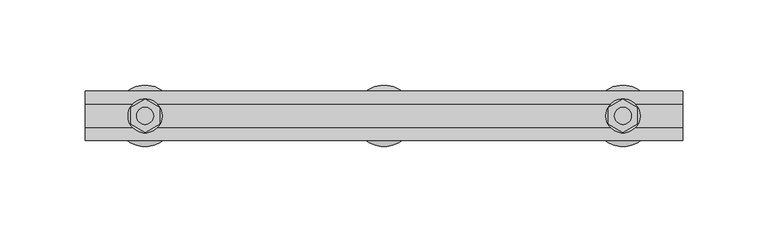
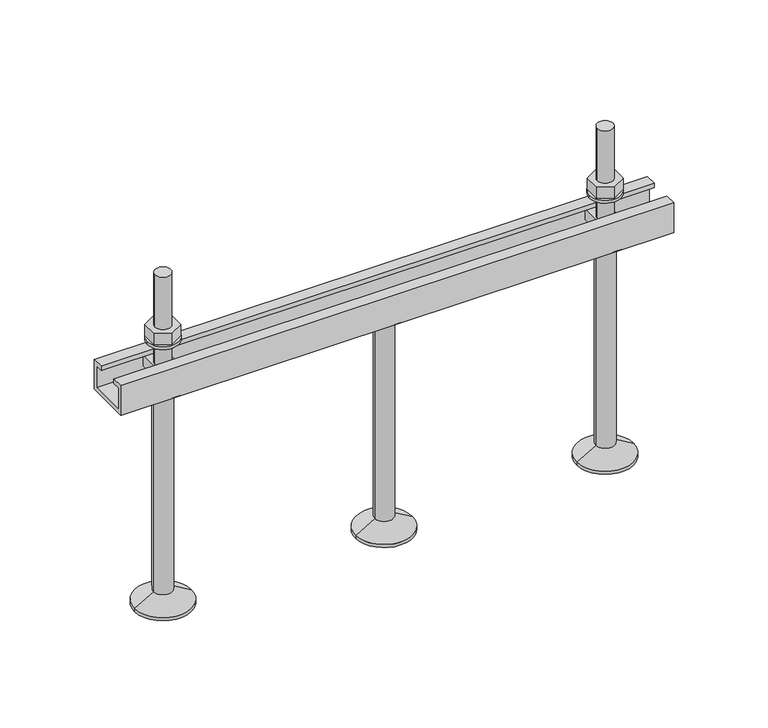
"""IFC4 building model written with IfcOpenShell, lengths in millimetres: fastener geometry, JXA(-PC) JORDAHL® toothed channels : JXA(-PC) L=350 mm."""

from ifc_helpers import new_model, si_unit, point, frame, frame_2d, origin, place, context, project, spatial, polyline, circle_curve, trimmed, segment, composite_curve, outline, extrude, source, transform, mapped, element, save
from ifc_brep_helpers import plane_surface, cylinder_surface, revolved_surface, advanced_brep


def fastener_a951ed44(model_context):
    return source(origin(), model_context, "Body", "SolidModel", [
        advanced_brep(
        [(175.0, 0.0, -20.0), (189.5, 0.0, -20.0), (160.5, 0.0, -20.0), (157.0, 0.0, -166.0), (193.0, 0.0, -166.0), (175.0, 0.0, -166.0), (157.0, 0.0, -164.0), (193.0, 0.0, -164.0), (169.0, 0.0, -157.0717968), (181.0, 0.0, -157.0717968), (169.0, 0.0, -22.5), (181.0, 0.0, -22.5)],
        [
            (0, 1),
            (1, 2, circle_curve(frame((175.0, 0.0, -20.0), z_axis=(0.0, 0.0, 1.0), x_axis=(1.0, 0.0, 0.0)), 14.5)),
            (2, 0),
            (2, 1, circle_curve(frame((175.0, 0.0, -20.0), z_axis=(0.0, 0.0, 1.0), x_axis=(1.0, 0.0, 0.0)), 14.5)),
            (3, 4, circle_curve(frame((175.0, 0.0, -166.0), z_axis=(0.0, 0.0, -1.0), x_axis=(1.0, 0.0, 0.0)), 18.0)),
            (4, 5),
            (5, 3),
            (4, 3, circle_curve(frame((175.0, 0.0, -166.0), z_axis=(0.0, 0.0, -1.0), x_axis=(1.0, 0.0, 0.0)), 18.0)),
            (6, 7, circle_curve(frame((175.0, 0.0, -164.0), z_axis=(0.0, 0.0, -1.0), x_axis=(1.0, 0.0, 0.0)), 18.0)),
            (7, 4),
            (3, 6),
            (7, 6, circle_curve(frame((175.0, 0.0, -164.0), z_axis=(0.0, 0.0, -1.0), x_axis=(1.0, 0.0, 0.0)), 18.0)),
            (8, 9, circle_curve(frame((175.0, 0.0, -157.0717968), z_axis=(0.0, 0.0, -1.0), x_axis=(1.0, 0.0, 0.0)), 6.0)),
            (9, 7),
            (6, 8),
            (9, 8, circle_curve(frame((175.0, 0.0, -157.0717968), z_axis=(0.0, 0.0, -1.0), x_axis=(1.0, 0.0, 0.0)), 6.0)),
            (10, 11, circle_curve(frame((175.0, 0.0, -22.5), z_axis=(0.0, 0.0, -1.0), x_axis=(1.0, 0.0, 0.0)), 6.0)),
            (11, 9),
            (8, 10),
            (11, 10, circle_curve(frame((175.0, 0.0, -22.5), z_axis=(0.0, 0.0, -1.0), x_axis=(1.0, 0.0, 0.0)), 6.0)),
            (1, 11),
            (10, 2),
        ],
        [
            plane_surface(frame((175.0, 0.0, -20.0), z_axis=(0.0, 0.0, 1.0), x_axis=(1.0, 0.0, 0.0))),
            plane_surface(frame((175.0, 0.0, -166.0), z_axis=(0.0, 0.0, -1.0), x_axis=(1.0, 0.0, 0.0))),
            cylinder_surface(frame((175.0, 0.0, 2214.3150031), z_axis=(0.0, 0.0, 1.0), x_axis=(1.0, 0.0, 0.0)), 18.0),
            revolved_surface(polyline([(193.0, 0.0, -164.0), (181.0, 0.0, -157.0717968)]), (175.0, 0.0, 2214.3150031), (0.0, 0.0, 1.0)),
            cylinder_surface(frame((175.0, 0.0, 2214.3150031), z_axis=(0.0, 0.0, 1.0), x_axis=(1.0, 0.0, 0.0)), 6.0),
            revolved_surface(polyline([(181.0, 0.0, -22.5), (189.5, 0.0, -20.0)]), (175.0, 0.0, 2214.3150031), (0.0, 0.0, 1.0)),
        ],
        [
            (0, [[1, 2, 3]]),
            (0, [[-3, 4, -1]]),
            (1, [[5, 6, 7]]),
            (1, [[8, -7, -6]]),
            (2, [[9, 10, -5, 11]]),
            (2, [[12, -11, -8, -10]]),
            (3, [[13, 14, -9, 15]]),
            (3, [[16, -15, -12, -14]]),
            (4, [[17, 18, -13, 19]]),
            (4, [[20, -19, -16, -18]]),
            (5, [[-2, 21, -17, 22]]),
            (5, [[-4, -22, -20, -21]]),
        ],
    ),
        extrude(outline(composite_curve([segment(trimmed(circle_curve(frame_2d((315.0, 0.0)), 10.0), [point((305.0, 0.0))], [point((325.0, 0.0))], False, "CARTESIAN"), True, "CONTINUOUS"), segment(trimmed(circle_curve(frame_2d((315.0, 0.0)), 10.0), [point((325.0, 0.0))], [point((305.0, 0.0))], False, "CARTESIAN"), True, "CONTINUOUS")], self_intersect=False), holes=[composite_curve([segment(trimmed(circle_curve(frame_2d((315.0, 0.0)), 5.5), [point((309.5, 0.0))], [point((320.5, 0.0))], True, "CARTESIAN"), True, "CONTINUOUS"), segment(trimmed(circle_curve(frame_2d((315.0, 0.0)), 5.5), [point((320.5, 0.0))], [point((309.5, 0.0))], True, "CARTESIAN"), True, "CONTINUOUS")], self_intersect=False)]), frame((0.0, 0.0, 10.0), z_axis=(0.0, 0.0, 1.0), x_axis=(1.0, 0.0, 0.0)), (0.0, 0.0, 1.0), 2.0),
        extrude(outline(polyline([(315.0, 9.8149546), (323.5, 4.9074773), (323.5, -4.9074773), (315.0, -9.8149546), (306.5, -4.9074773), (306.5, 4.9074773), (315.0, 9.8149546)]), holes=[composite_curve([segment(trimmed(circle_curve(frame_2d((315.0, 0.0)), 5.0), [point((310.0, 0.0))], [point((320.0, 0.0))], True, "CARTESIAN"), True, "CONTINUOUS"), segment(trimmed(circle_curve(frame_2d((315.0, 0.0)), 5.0), [point((320.0, 0.0))], [point((310.0, 0.0))], True, "CARTESIAN"), True, "CONTINUOUS")], self_intersect=False)]), frame((0.0, 0.0, 12.0), z_axis=(0.0, 0.0, 1.0), x_axis=(1.0, 0.0, 0.0)), (0.0, 0.0, 1.0), 8.0),
        advanced_brep(
        [(321.5, 10.5, -5.0), (321.5, -10.5, -5.0), (321.5, -10.5, -12.0), (321.5, 10.5, -12.0), (308.5, 10.5, -5.0), (308.5, 10.5, -12.0), (308.5, -10.5, -12.0), (308.5, -10.5, -5.0), (320.0, 0.0, -5.0), (310.0, 0.0, -5.0), (310.0, 0.0, 55.0), (320.0, 0.0, 55.0)],
        [
            (0, 1),
            (1, 2),
            (2, 3),
            (3, 0),
            (4, 5),
            (5, 6),
            (6, 7),
            (7, 4),
            (0, 4),
            (7, 1),
            (8, 9, circle_curve(frame((315.0, 0.0, -5.0), z_axis=(0.0, 0.0, -1.0), x_axis=(1.0, 0.0, 0.0)), 5.0)),
            (9, 8, circle_curve(frame((315.0, 0.0, -5.0), z_axis=(0.0, 0.0, -1.0), x_axis=(1.0, 0.0, 0.0)), 5.0)),
            (6, 2),
            (5, 3),
            (10, 11, circle_curve(frame((315.0, 0.0, 55.0), z_axis=(0.0, 0.0, 1.0), x_axis=(1.0, 0.0, 0.0)), 5.0)),
            (11, 10, circle_curve(frame((315.0, 0.0, 55.0), z_axis=(0.0, 0.0, 1.0), x_axis=(1.0, 0.0, 0.0)), 5.0)),
            (10, 9),
            (8, 11),
        ],
        [
            plane_surface(frame((321.5, -10.5, -5.0), z_axis=(1.0, 0.0, 0.0), x_axis=(0.0, -1.0, 0.0))),
            plane_surface(frame((308.5, -10.5, -5.0), z_axis=(-1.0, 0.0, 0.0), x_axis=(0.0, 1.0, 0.0))),
            plane_surface(frame((321.5, 10.5, -5.0), z_axis=(0.0, 0.0, 1.0), x_axis=(-1.0, 0.0, 0.0))),
            plane_surface(frame((321.5, -10.5, -5.0), z_axis=(0.0, -1.0, 0.0), x_axis=(-1.0, 0.0, 0.0))),
            plane_surface(frame((321.5, -10.5, -12.0), z_axis=(0.0, 0.0, -1.0), x_axis=(-1.0, 0.0, 0.0))),
            plane_surface(frame((321.5, 10.5, -12.0), z_axis=(0.0, 1.0, 0.0), x_axis=(-1.0, 0.0, 0.0))),
            plane_surface(frame((320.0, 0.0, 55.0), z_axis=(0.0, 0.0, 1.0), x_axis=(0.0, 1.0, 0.0))),
            cylinder_surface(frame((315.0, 0.0, -5.0), z_axis=(0.0, 0.0, 1.0), x_axis=(1.0, 0.0, 0.0)), 5.0),
        ],
        [
            (0, [[1, 2, 3, 4]]),
            (1, [[5, 6, 7, 8]]),
            (2, [[-1, 9, -8, 10], [11, 12]]),
            (3, [[-2, -10, -7, 13]]),
            (4, [[-3, -13, -6, 14]]),
            (5, [[-4, -14, -5, -9]]),
            (6, [[15, 16]]),
            (7, [[-15, 17, -11, 18]]),
            (7, [[-16, -18, -12, -17]]),
        ],
    ),
        extrude(outline(composite_curve([segment(trimmed(circle_curve(frame_2d((35.0, 0.0)), 10.0), [point((25.0, 0.0))], [point((45.0, 0.0))], False, "CARTESIAN"), True, "CONTINUOUS"), segment(trimmed(circle_curve(frame_2d((35.0, 0.0)), 10.0), [point((45.0, 0.0))], [point((25.0, 0.0))], False, "CARTESIAN"), True, "CONTINUOUS")], self_intersect=False), holes=[composite_curve([segment(trimmed(circle_curve(frame_2d((35.0, 0.0)), 5.5), [point((29.5, 0.0))], [point((40.5, 0.0))], True, "CARTESIAN"), True, "CONTINUOUS"), segment(trimmed(circle_curve(frame_2d((35.0, 0.0)), 5.5), [point((40.5, 0.0))], [point((29.5, 0.0))], True, "CARTESIAN"), True, "CONTINUOUS")], self_intersect=False)]), frame((0.0, 0.0, 10.0), z_axis=(0.0, 0.0, 1.0), x_axis=(1.0, 0.0, 0.0)), (0.0, 0.0, 1.0), 2.0),
        extrude(outline(polyline([(35.0, 9.8149546), (43.5, 4.9074773), (43.5, -4.9074773), (35.0, -9.8149546), (26.5, -4.9074773), (26.5, 4.9074773), (35.0, 9.8149546)]), holes=[composite_curve([segment(trimmed(circle_curve(frame_2d((35.0, 0.0)), 5.0), [point((30.0, 0.0))], [point((40.0, 0.0))], True, "CARTESIAN"), True, "CONTINUOUS"), segment(trimmed(circle_curve(frame_2d((35.0, 0.0)), 5.0), [point((40.0, 0.0))], [point((30.0, 0.0))], True, "CARTESIAN"), True, "CONTINUOUS")], self_intersect=False)]), frame((0.0, 0.0, 12.0), z_axis=(0.0, 0.0, 1.0), x_axis=(1.0, 0.0, 0.0)), (0.0, 0.0, 1.0), 8.0),
        advanced_brep(
        [(41.5, 10.5, -5.0), (41.5, -10.5, -5.0), (41.5, -10.5, -12.0), (41.5, 10.5, -12.0), (28.5, 10.5, -5.0), (28.5, 10.5, -12.0), (28.5, -10.5, -12.0), (28.5, -10.5, -5.0), (40.0, 0.0, -5.0), (30.0, 0.0, -5.0), (30.0, 0.0, 55.0), (40.0, 0.0, 55.0)],
        [
            (0, 1),
            (1, 2),
            (2, 3),
            (3, 0),
            (4, 5),
            (5, 6),
            (6, 7),
            (7, 4),
            (0, 4),
            (7, 1),
            (8, 9, circle_curve(frame((35.0, 0.0, -5.0), z_axis=(0.0, 0.0, -1.0), x_axis=(1.0, 0.0, 0.0)), 5.0)),
            (9, 8, circle_curve(frame((35.0, 0.0, -5.0), z_axis=(0.0, 0.0, -1.0), x_axis=(1.0, 0.0, 0.0)), 5.0)),
            (6, 2),
            (5, 3),
            (10, 11, circle_curve(frame((35.0, 0.0, 55.0), z_axis=(0.0, 0.0, 1.0), x_axis=(1.0, 0.0, 0.0)), 5.0)),
            (11, 10, circle_curve(frame((35.0, 0.0, 55.0), z_axis=(0.0, 0.0, 1.0), x_axis=(1.0, 0.0, 0.0)), 5.0)),
            (10, 9),
            (8, 11),
        ],
        [
            plane_surface(frame((41.5, -10.5, -5.0), z_axis=(1.0, 0.0, 0.0), x_axis=(0.0, -1.0, 0.0))),
            plane_surface(frame((28.5, -10.5, -5.0), z_axis=(-1.0, 0.0, 0.0), x_axis=(0.0, 1.0, 0.0))),
            plane_surface(frame((41.5, 10.5, -5.0), z_axis=(0.0, 0.0, 1.0), x_axis=(-1.0, 0.0, 0.0))),
            plane_surface(frame((41.5, -10.5, -5.0), z_axis=(0.0, -1.0, 0.0), x_axis=(-1.0, 0.0, 0.0))),
            plane_surface(frame((41.5, -10.5, -12.0), z_axis=(0.0, 0.0, -1.0), x_axis=(-1.0, 0.0, 0.0))),
            plane_surface(frame((41.5, 10.5, -12.0), z_axis=(0.0, 1.0, 0.0), x_axis=(-1.0, 0.0, 0.0))),
            plane_surface(frame((40.0, 0.0, 55.0), z_axis=(0.0, 0.0, 1.0), x_axis=(0.0, 1.0, 0.0))),
            cylinder_surface(frame((35.0, 0.0, -5.0), z_axis=(0.0, 0.0, 1.0), x_axis=(1.0, 0.0, 0.0)), 5.0),
        ],
        [
            (0, [[1, 2, 3, 4]]),
            (1, [[5, 6, 7, 8]]),
            (2, [[-1, 9, -8, 10], [11, 12]]),
            (3, [[-2, -10, -7, 13]]),
            (4, [[-3, -13, -6, 14]]),
            (5, [[-4, -14, -5, -9]]),
            (6, [[15, 16]]),
            (7, [[-15, 17, -11, 18]]),
            (7, [[-16, -18, -12, -17]]),
        ],
    ),
        advanced_brep(
        [(315.0, 0.0, -20.0), (329.5, 0.0, -20.0), (300.5, 0.0, -20.0), (297.0, 0.0, -166.0), (333.0, 0.0, -166.0), (315.0, 0.0, -166.0), (297.0, 0.0, -164.0), (333.0, 0.0, -164.0), (309.0, 0.0, -157.0717968), (321.0, 0.0, -157.0717968), (309.0, 0.0, -22.5), (321.0, 0.0, -22.5)],
        [
            (0, 1),
            (1, 2, circle_curve(frame((315.0, 0.0, -20.0), z_axis=(0.0, 0.0, 1.0), x_axis=(1.0, 0.0, 0.0)), 14.5)),
            (2, 0),
            (2, 1, circle_curve(frame((315.0, 0.0, -20.0), z_axis=(0.0, 0.0, 1.0), x_axis=(1.0, 0.0, 0.0)), 14.5)),
            (3, 4, circle_curve(frame((315.0, 0.0, -166.0), z_axis=(0.0, 0.0, -1.0), x_axis=(1.0, 0.0, 0.0)), 18.0)),
            (4, 5),
            (5, 3),
            (4, 3, circle_curve(frame((315.0, 0.0, -166.0), z_axis=(0.0, 0.0, -1.0), x_axis=(1.0, 0.0, 0.0)), 18.0)),
            (6, 7, circle_curve(frame((315.0, 0.0, -164.0), z_axis=(0.0, 0.0, -1.0), x_axis=(1.0, 0.0, 0.0)), 18.0)),
            (7, 4),
            (3, 6),
            (7, 6, circle_curve(frame((315.0, 0.0, -164.0), z_axis=(0.0, 0.0, -1.0), x_axis=(1.0, 0.0, 0.0)), 18.0)),
            (8, 9, circle_curve(frame((315.0, 0.0, -157.0717968), z_axis=(0.0, 0.0, -1.0), x_axis=(1.0, 0.0, 0.0)), 6.0)),
            (9, 7),
            (6, 8),
            (9, 8, circle_curve(frame((315.0, 0.0, -157.0717968), z_axis=(0.0, 0.0, -1.0), x_axis=(1.0, 0.0, 0.0)), 6.0)),
            (10, 11, circle_curve(frame((315.0, 0.0, -22.5), z_axis=(0.0, 0.0, -1.0), x_axis=(1.0, 0.0, 0.0)), 6.0)),
            (11, 9),
            (8, 10),
            (11, 10, circle_curve(frame((315.0, 0.0, -22.5), z_axis=(0.0, 0.0, -1.0), x_axis=(1.0, 0.0, 0.0)), 6.0)),
            (1, 11),
            (10, 2),
        ],
        [
            plane_surface(frame((315.0, 0.0, -20.0), z_axis=(0.0, 0.0, 1.0), x_axis=(1.0, 0.0, 0.0))),
            plane_surface(frame((315.0, 0.0, -166.0), z_axis=(0.0, 0.0, -1.0), x_axis=(1.0, 0.0, 0.0))),
            cylinder_surface(frame((315.0, 0.0, 2214.3150031), z_axis=(0.0, 0.0, 1.0), x_axis=(1.0, 0.0, 0.0)), 18.0),
            revolved_surface(polyline([(333.0, 0.0, -164.0), (321.0, 0.0, -157.0717968)]), (315.0, 0.0, 2214.3150031), (0.0, 0.0, 1.0)),
            cylinder_surface(frame((315.0, 0.0, 2214.3150031), z_axis=(0.0, 0.0, 1.0), x_axis=(1.0, 0.0, 0.0)), 6.0),
            revolved_surface(polyline([(321.0, 0.0, -22.5), (329.5, 0.0, -20.0)]), (315.0, 0.0, 2214.3150031), (0.0, 0.0, 1.0)),
        ],
        [
            (0, [[1, 2, 3]]),
            (0, [[-3, 4, -1]]),
            (1, [[5, 6, 7]]),
            (1, [[8, -7, -6]]),
            (2, [[9, 10, -5, 11]]),
            (2, [[12, -11, -8, -10]]),
            (3, [[13, 14, -9, 15]]),
            (3, [[16, -15, -12, -14]]),
            (4, [[17, 18, -13, 19]]),
            (4, [[20, -19, -16, -18]]),
            (5, [[-2, 21, -17, 22]]),
            (5, [[-4, -22, -20, -21]]),
        ],
    ),
        advanced_brep(
        [(35.0, 0.0, -20.0), (49.5, 0.0, -20.0), (20.5, 0.0, -20.0), (17.0, 0.0, -166.0), (53.0, 0.0, -166.0), (35.0, 0.0, -166.0), (17.0, 0.0, -164.0), (53.0, 0.0, -164.0), (29.0, 0.0, -157.0717968), (41.0, 0.0, -157.0717968), (29.0, 0.0, -22.5), (41.0, 0.0, -22.5)],
        [
            (0, 1),
            (1, 2, circle_curve(frame((35.0, 0.0, -20.0), z_axis=(0.0, 0.0, 1.0), x_axis=(1.0, 0.0, 0.0)), 14.5)),
            (2, 0),
            (2, 1, circle_curve(frame((35.0, 0.0, -20.0), z_axis=(0.0, 0.0, 1.0), x_axis=(1.0, 0.0, 0.0)), 14.5)),
            (3, 4, circle_curve(frame((35.0, 0.0, -166.0), z_axis=(0.0, 0.0, -1.0), x_axis=(1.0, 0.0, 0.0)), 18.0)),
            (4, 5),
            (5, 3),
            (4, 3, circle_curve(frame((35.0, 0.0, -166.0), z_axis=(0.0, 0.0, -1.0), x_axis=(1.0, 0.0, 0.0)), 18.0)),
            (6, 7, circle_curve(frame((35.0, 0.0, -164.0), z_axis=(0.0, 0.0, -1.0), x_axis=(1.0, 0.0, 0.0)), 18.0)),
            (7, 4),
            (3, 6),
            (7, 6, circle_curve(frame((35.0, 0.0, -164.0), z_axis=(0.0, 0.0, -1.0), x_axis=(1.0, 0.0, 0.0)), 18.0)),
            (8, 9, circle_curve(frame((35.0, 0.0, -157.0717968), z_axis=(0.0, 0.0, -1.0), x_axis=(1.0, 0.0, 0.0)), 6.0)),
            (9, 7),
            (6, 8),
            (9, 8, circle_curve(frame((35.0, 0.0, -157.0717968), z_axis=(0.0, 0.0, -1.0), x_axis=(1.0, 0.0, 0.0)), 6.0)),
            (10, 11, circle_curve(frame((35.0, 0.0, -22.5), z_axis=(0.0, 0.0, -1.0), x_axis=(1.0, 0.0, 0.0)), 6.0)),
            (11, 9),
            (8, 10),
            (11, 10, circle_curve(frame((35.0, 0.0, -22.5), z_axis=(0.0, 0.0, -1.0), x_axis=(1.0, 0.0, 0.0)), 6.0)),
            (1, 11),
            (10, 2),
        ],
        [
            plane_surface(frame((35.0, 0.0, -20.0), z_axis=(0.0, 0.0, 1.0), x_axis=(1.0, 0.0, 0.0))),
            plane_surface(frame((35.0, 0.0, -166.0), z_axis=(0.0, 0.0, -1.0), x_axis=(1.0, 0.0, 0.0))),
            cylinder_surface(frame((35.0, 0.0, 2214.3150031), z_axis=(0.0, 0.0, 1.0), x_axis=(1.0, 0.0, 0.0)), 18.0),
            revolved_surface(polyline([(53.0, 0.0, -164.0), (41.0, 0.0, -157.0717968)]), (35.0, 0.0, 2214.3150031), (0.0, 0.0, 1.0)),
            cylinder_surface(frame((35.0, 0.0, 2214.3150031), z_axis=(0.0, 0.0, 1.0), x_axis=(1.0, 0.0, 0.0)), 6.0),
            revolved_surface(polyline([(41.0, 0.0, -22.5), (49.5, 0.0, -20.0)]), (35.0, 0.0, 2214.3150031), (0.0, 0.0, 1.0)),
        ],
        [
            (0, [[1, 2, 3]]),
            (0, [[-3, 4, -1]]),
            (1, [[5, 6, 7]]),
            (1, [[8, -7, -6]]),
            (2, [[9, 10, -5, 11]]),
            (2, [[12, -11, -8, -10]]),
            (3, [[13, 14, -9, 15]]),
            (3, [[16, -15, -12, -14]]),
            (4, [[17, 18, -13, 19]]),
            (4, [[20, -19, -16, -18]]),
            (5, [[-2, 21, -17, 22]]),
            (5, [[-4, -22, -20, -21]]),
        ],
    ),
        extrude(outline(polyline([(14.5, 0.0), (14.5, -20.0), (-14.5, -20.0), (-14.5, 0.0), (-7.0, 0.0), (-7.0, -3.0), (-12.0, -3.0), (-12.0, -17.5), (12.0, -17.5), (12.0, -3.0), (7.0, -3.0), (7.0, 0.0), (14.5, 0.0)])), frame((0.0, 0.0, 0.0), z_axis=(1.0, 0.0, 0.0), x_axis=(0.0, 1.0, 0.0)), (0.0, 0.0, 1.0), 350.0),
    ])


if __name__ == "__main__":
    model = new_model("IFC4")
    model_context = context("Model", 3, world=origin())
    ifc_project = project(units=[si_unit("LENGTHUNIT", "METRE", prefix="MILLI")], contexts=[model_context])
    site = spatial("IfcSite", under=ifc_project)
    building = spatial("IfcBuilding", under=site)
    placement = place(None, origin())
    fastener_shape = fastener_a951ed44(model_context)
    element("IfcFastener", 1, ObjectType="JXA(-PC) JORDAHL® toothed channels : JXA(-PC) L=350 mm", at=placement, inside=building, context=model_context, shape_type="MappedRepresentation", body=[
        mapped(fastener_shape, transform((0.0, 0.0, 0.0), x_axis=(1.0, 0.0, 0.0), y_axis=(0.0, 1.0, 0.0), z_axis=(0.0, 0.0, 1.0))),
    ])
    save(model, "model.ifc")
